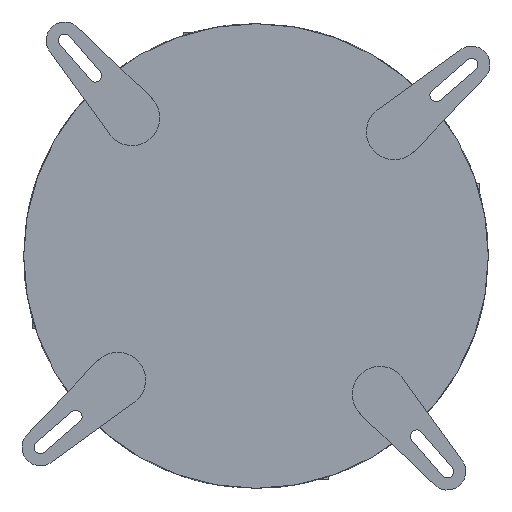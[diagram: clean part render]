
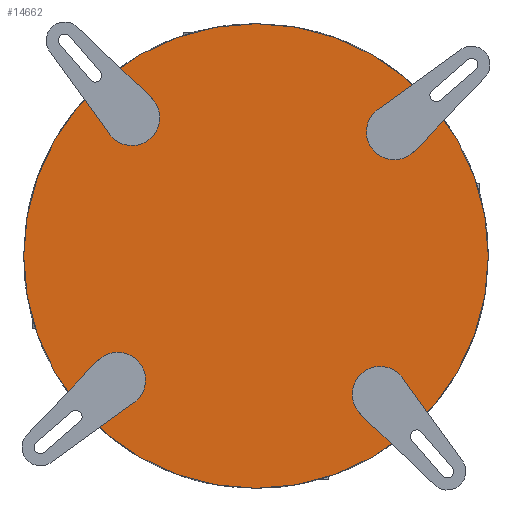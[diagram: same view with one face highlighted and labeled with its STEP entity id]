
A CAD part, front view. The second image highlights one B-rep face of the part: STEP entity #14662.
In plain terms, the highlighted planar face has unit normal (0, -1, 0).
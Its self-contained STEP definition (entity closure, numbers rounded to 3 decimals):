
#916 = DIRECTION ( 'NONE',  ( 0., 0., -1. ) ) ;
#2425 = VERTEX_POINT ( 'NONE', #11602 ) ;
#3678 = AXIS2_PLACEMENT_3D ( 'NONE', #17748, #25890, #21640 ) ;
#5174 = DIRECTION ( 'NONE',  ( 0., 0., -1. ) ) ;
#5707 = ORIENTED_EDGE ( 'NONE', *, *, #23890, .F. ) ;
#7274 = CARTESIAN_POINT ( 'NONE',  ( 0., -154.5, 0. ) ) ;
#7565 = EDGE_CURVE ( 'NONE', #25847, #2425, #8180, .T. ) ;
#8180 = CIRCLE ( 'NONE', #16623, 125. ) ;
#8917 = PLANE ( 'NONE',  #21047 ) ;
#11602 = CARTESIAN_POINT ( 'NONE',  ( 0., -154.5, 125. ) ) ;
#12790 = CARTESIAN_POINT ( 'NONE',  ( 0., -154.5, 0. ) ) ;
#13822 = CIRCLE ( 'NONE', #3678, 125. ) ;
#14662 = ADVANCED_FACE ( 'NONE', ( #16770 ), #8917, .T. ) ;
#14922 = DIRECTION ( 'NONE',  ( 0., -1., 0. ) ) ;
#16623 = AXIS2_PLACEMENT_3D ( 'NONE', #7274, #25282, #5174 ) ;
#16770 = FACE_OUTER_BOUND ( 'NONE', #17608, .T. ) ;
#17174 = CARTESIAN_POINT ( 'NONE',  ( 0., -154.5, -125. ) ) ;
#17608 = EDGE_LOOP ( 'NONE', ( #25723, #5707 ) ) ;
#17748 = CARTESIAN_POINT ( 'NONE',  ( 0., -154.5, 0. ) ) ;
#21047 = AXIS2_PLACEMENT_3D ( 'NONE', #12790, #14922, #916 ) ;
#21640 = DIRECTION ( 'NONE',  ( 0., 0., -1. ) ) ;
#23890 = EDGE_CURVE ( 'NONE', #2425, #25847, #13822, .T. ) ;
#25282 = DIRECTION ( 'NONE',  ( 0., 1., 0. ) ) ;
#25723 = ORIENTED_EDGE ( 'NONE', *, *, #7565, .F. ) ;
#25847 = VERTEX_POINT ( 'NONE', #17174 ) ;
#25890 = DIRECTION ( 'NONE',  ( 0., 1., 0. ) ) ;
